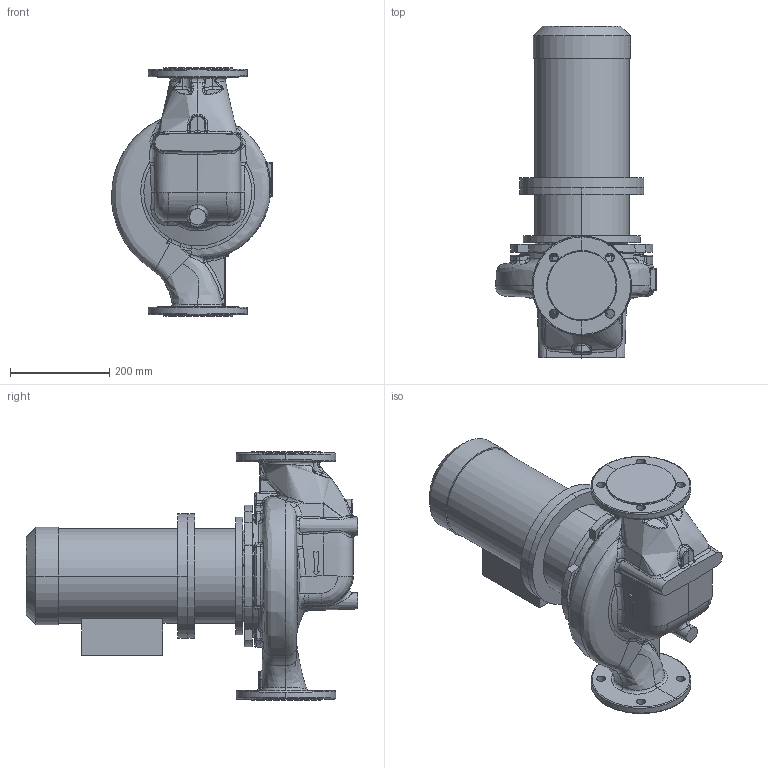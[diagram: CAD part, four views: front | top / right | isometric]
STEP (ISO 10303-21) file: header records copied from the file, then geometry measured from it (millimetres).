
FILE_DESCRIPTION (( 'STEP AP214' ), '1' );
FILE_NAME ('KRL 80-210-4-2,2.STEP', '2026-04-06T11:25:23', ( '' ), ( '' ), 'SwSTEP 2.0', 'SolidWorks 2016', '' );
FILE_SCHEMA (( 'AUTOMOTIVE_DESIGN' ));
Length unit declared in the file: millimetre
Products named in the file (1): KRL 80-210-4-2,2
Bounding box: 323.28 x 667.3 x 500 mm (x, y, z)
Volume: 29022652.4 mm3; surface area: 1190253.3 mm2
Topology: 4 solids, 4 shells, 669 faces, 1656 edges, 986 vertices
Faces by surface type: bspline 324, plane 126, cylinder 120, cone 50, torus 28, sphere 21
Entity records: 69302 total; most frequent: CARTESIAN_POINT 49060, ORIENTED_EDGE 3256, DIRECTION 1900, EDGE_CURVE 1628, VERTEX_POINT 986, AXIS2_PLACEMENT_3D 811, B_SPLINE_CURVE_WITH_KNOTS 757, EDGE_LOOP 704
